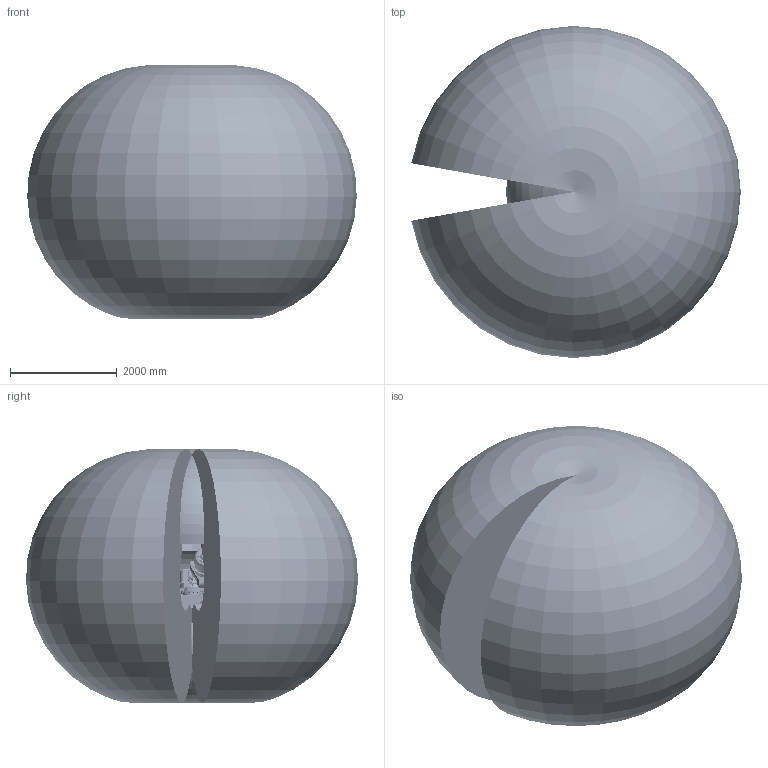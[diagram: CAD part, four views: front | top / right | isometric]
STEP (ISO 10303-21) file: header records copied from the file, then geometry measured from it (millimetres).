
FILE_DESCRIPTION (( 'STEP AP214' ), '1' );
FILE_NAME ('IRB6730S_270kg-310_OC_01_ASM_CAD.step', '2026-05-26T10:36:56', ( '' ), ( '' ), 'SwSTEP 2.0', 'SolidWorks 2024', '' );
FILE_SCHEMA (( 'AUTOMOTIVE_DESIGN' ));
Length unit declared in the file: millimetre
Products named in the file (14): IRB6730S_All_OC_00_LINK01_CAD; IRB6730S_All_OC_00_CYL_CAD; IRB6730S_270kg-310_OC_00_Working-envelope; IRB6730S-ALL-OC_00_LINK01m_CABLE; IRB6730S_All-310_OC_00_LINK04_CAD; IRB6730S-ALL-OC_00_LINK03m_CABLE; IRB6730S_All_OC_00_BASE_CAD; IRB6730S_All-310_OC_01_LINK05_CAD; IRB6730S_270kg-310_OC_00_LINK06_CAD; IRB6730S_270kg-310_OC_01_ASM_CAD; IRB6730S_All_OC_00_ROD_CAD; IRB6730S_All_OC_00_LINK03_CAD; IRB6730S-ALL-OC_00_LINK02m_CABLE; IRB6730S_All_OC_00_LINK02_CAD
Assembly tree (13 placements, depth 2):
  IRB6730S_270kg-310_OC_01_ASM_CAD
    IRB6730S_All_OC_00_BASE_CAD
    IRB6730S_All_OC_00_CYL_CAD
    IRB6730S_All_OC_00_LINK01_CAD
    IRB6730S_All_OC_00_LINK02_CAD
    IRB6730S_All_OC_00_LINK03_CAD
    IRB6730S_All_OC_00_ROD_CAD
    IRB6730S_All-310_OC_00_LINK04_CAD
    IRB6730S_All-310_OC_01_LINK05_CAD
    IRB6730S_270kg-310_OC_00_LINK06_CAD
    IRB6730S-ALL-OC_00_LINK01m_CABLE
    IRB6730S-ALL-OC_00_LINK02m_CABLE
    IRB6730S-ALL-OC_00_LINK03m_CABLE
    IRB6730S_270kg-310_OC_00_Working-envelope
Bounding box: 6160.27 x 6207.01 x 4742.53 mm (x, y, z)
Volume: 93780198439.6 mm3; surface area: 157028651.5 mm2
Topology: 18 solids, 25 shells, 8223 faces, 21179 edges, 13505 vertices
Faces by surface type: plane 3642, cylinder 2067, cone 1482, bspline 781, torus 238, sphere 13
Entity records: 459055 total; most frequent: CARTESIAN_POINT 206316, ORIENTED_EDGE 41854, DIRECTION 37376, EDGE_CURVE 20927, AXIS2_PLACEMENT_3D 13890, VERTEX_POINT 13505, LINE 9596, VECTOR 9596
